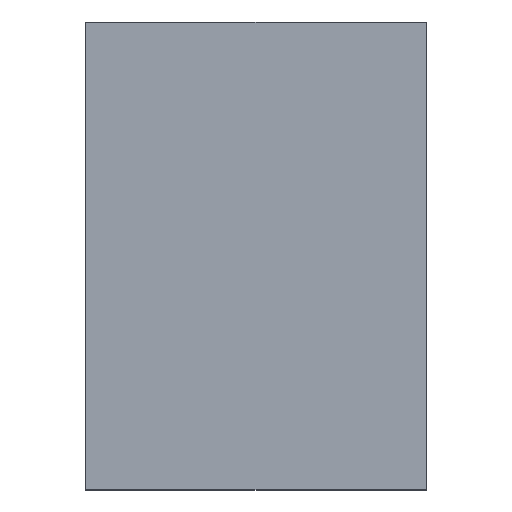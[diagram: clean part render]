
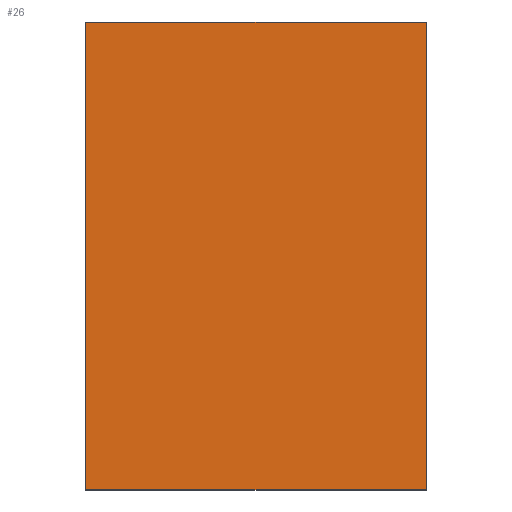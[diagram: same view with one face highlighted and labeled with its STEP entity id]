
A CAD part, top view. The second image highlights one B-rep face of the part: STEP entity #26.
In plain terms, the highlighted planar face has unit normal (0, 0, 1).
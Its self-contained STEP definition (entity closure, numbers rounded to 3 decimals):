
#26=ADVANCED_FACE('',(#32),#184,.T.);
#32=FACE_OUTER_BOUND('',#38,.T.);
#38=EDGE_LOOP('',(#50,#51,#52,#53));
#50=ORIENTED_EDGE('',*,*,#133,.T.);
#51=ORIENTED_EDGE('',*,*,#134,.T.);
#52=ORIENTED_EDGE('',*,*,#135,.T.);
#53=ORIENTED_EDGE('',*,*,#131,.F.);
#71=PCURVE('',#183,#95);
#74=PCURVE('',#184,#98);
#75=PCURVE('',#184,#99);
#76=PCURVE('',#184,#100);
#77=PCURVE('',#184,#101);
#81=PCURVE('',#185,#105);
#84=PCURVE('',#186,#108);
#87=PCURVE('',#187,#111);
#95=DEFINITIONAL_REPRESENTATION('',(#149),#313);
#98=DEFINITIONAL_REPRESENTATION('',(#154),#313);
#99=DEFINITIONAL_REPRESENTATION('',(#156),#313);
#100=DEFINITIONAL_REPRESENTATION('',(#158),#313);
#101=DEFINITIONAL_REPRESENTATION('',(#159),#313);
#105=DEFINITIONAL_REPRESENTATION('',(#165),#313);
#108=DEFINITIONAL_REPRESENTATION('',(#168),#313);
#111=DEFINITIONAL_REPRESENTATION('',(#171),#313);
#119=SURFACE_CURVE('',#148,(#71,#77),.PCURVE_S1.);
#121=SURFACE_CURVE('',#153,(#74,#87),.PCURVE_S1.);
#122=SURFACE_CURVE('',#155,(#75,#81),.PCURVE_S1.);
#123=SURFACE_CURVE('',#157,(#76,#84),.PCURVE_S1.);
#131=EDGE_CURVE('',#180,#176,#119,.T.);
#133=EDGE_CURVE('',#180,#181,#121,.T.);
#134=EDGE_CURVE('',#181,#177,#122,.T.);
#135=EDGE_CURVE('',#177,#176,#123,.T.);
#148=B_SPLINE_CURVE_WITH_KNOTS('',1,(#260,#261),.UNSPECIFIED.,.F.,.F.,(2,
2),(21.333,80.),.UNSPECIFIED.);
#149=B_SPLINE_CURVE_WITH_KNOTS('',1,(#262,#263),.UNSPECIFIED.,.F.,.F.,(2,
2),(21.333,80.),.UNSPECIFIED.);
#153=B_SPLINE_CURVE_WITH_KNOTS('',1,(#270,#271),.UNSPECIFIED.,.F.,.F.,(2,
2),(60.,100.),.UNSPECIFIED.);
#154=B_SPLINE_CURVE_WITH_KNOTS('',1,(#272,#273),.UNSPECIFIED.,.F.,.F.,(2,
2),(60.,100.),.UNSPECIFIED.);
#155=B_SPLINE_CURVE_WITH_KNOTS('',1,(#274,#275),.UNSPECIFIED.,.F.,.F.,(2,
2),(21.333,80.),.UNSPECIFIED.);
#156=B_SPLINE_CURVE_WITH_KNOTS('',1,(#276,#277),.UNSPECIFIED.,.F.,.F.,(2,
2),(21.333,80.),.UNSPECIFIED.);
#157=B_SPLINE_CURVE_WITH_KNOTS('',1,(#278,#279),.UNSPECIFIED.,.F.,.F.,(2,
2),(-100.,-60.),.UNSPECIFIED.);
#158=B_SPLINE_CURVE_WITH_KNOTS('',1,(#280,#281),.UNSPECIFIED.,.F.,.F.,(2,
2),(-100.,-60.),.UNSPECIFIED.);
#159=B_SPLINE_CURVE_WITH_KNOTS('',1,(#282,#283),.UNSPECIFIED.,.F.,.F.,(2,
2),(21.333,80.),.UNSPECIFIED.);
#165=B_SPLINE_CURVE_WITH_KNOTS('',1,(#294,#295),.UNSPECIFIED.,.F.,.F.,(2,
2),(21.333,80.),.UNSPECIFIED.);
#168=B_SPLINE_CURVE_WITH_KNOTS('',1,(#300,#301),.UNSPECIFIED.,.F.,.F.,(2,
2),(-100.,-60.),.UNSPECIFIED.);
#171=B_SPLINE_CURVE_WITH_KNOTS('',1,(#306,#307),.UNSPECIFIED.,.F.,.F.,(2,
2),(60.,100.),.UNSPECIFIED.);
#176=VERTEX_POINT('',#234);
#177=VERTEX_POINT('',#235);
#180=VERTEX_POINT('',#238);
#181=VERTEX_POINT('',#239);
#183=PLANE('',#209);
#184=PLANE('',#210);
#185=PLANE('',#211);
#186=PLANE('',#212);
#187=PLANE('',#213);
#209=AXIS2_PLACEMENT_3D('',#227,#218,$);
#210=AXIS2_PLACEMENT_3D('',#228,#219,$);
#211=AXIS2_PLACEMENT_3D('',#229,#220,$);
#212=AXIS2_PLACEMENT_3D('',#230,#221,$);
#213=AXIS2_PLACEMENT_3D('',#231,#222,$);
#218=DIRECTION('',(1.,0.,0.));
#219=DIRECTION('',(0.,0.,1.));
#220=DIRECTION('',(-1.,0.,0.));
#221=DIRECTION('',(0.,-1.,0.));
#222=DIRECTION('',(0.,1.,0.));
#227=CARTESIAN_POINT('',(-450.,105.,40.));
#228=CARTESIAN_POINT('',(-450.,105.,60.));
#229=CARTESIAN_POINT('',(-490.,105.,60.));
#230=CARTESIAN_POINT('',(-490.,30.,40.));
#231=CARTESIAN_POINT('',(-490.,85.,40.));
#234=CARTESIAN_POINT('',(-450.,30.,60.));
#235=CARTESIAN_POINT('',(-490.,30.,60.));
#238=CARTESIAN_POINT('',(-450.,85.,60.));
#239=CARTESIAN_POINT('',(-490.,85.,60.));
#260=CARTESIAN_POINT('',(-450.,85.,60.));
#261=CARTESIAN_POINT('',(-450.,30.,60.));
#262=CARTESIAN_POINT('',(60.,21.333));
#263=CARTESIAN_POINT('',(60.,80.));
#270=CARTESIAN_POINT('',(-450.,85.,60.));
#271=CARTESIAN_POINT('',(-490.,85.,60.));
#272=CARTESIAN_POINT('',(60.,21.333));
#273=CARTESIAN_POINT('',(100.,21.333));
#274=CARTESIAN_POINT('',(-490.,85.,60.));
#275=CARTESIAN_POINT('',(-490.,30.,60.));
#276=CARTESIAN_POINT('',(100.,21.333));
#277=CARTESIAN_POINT('',(100.,80.));
#278=CARTESIAN_POINT('',(-490.,30.,60.));
#279=CARTESIAN_POINT('',(-450.,30.,60.));
#280=CARTESIAN_POINT('',(100.,80.));
#281=CARTESIAN_POINT('',(60.,80.));
#282=CARTESIAN_POINT('',(60.,21.333));
#283=CARTESIAN_POINT('',(60.,80.));
#294=CARTESIAN_POINT('',(100.,21.333));
#295=CARTESIAN_POINT('',(100.,80.));
#300=CARTESIAN_POINT('',(0.,20.));
#301=CARTESIAN_POINT('',(40.,20.));
#306=CARTESIAN_POINT('',(20.,40.));
#307=CARTESIAN_POINT('',(20.,0.));
#313=(
GEOMETRIC_REPRESENTATION_CONTEXT(2)
PARAMETRIC_REPRESENTATION_CONTEXT()
REPRESENTATION_CONTEXT('pspace','')
);
